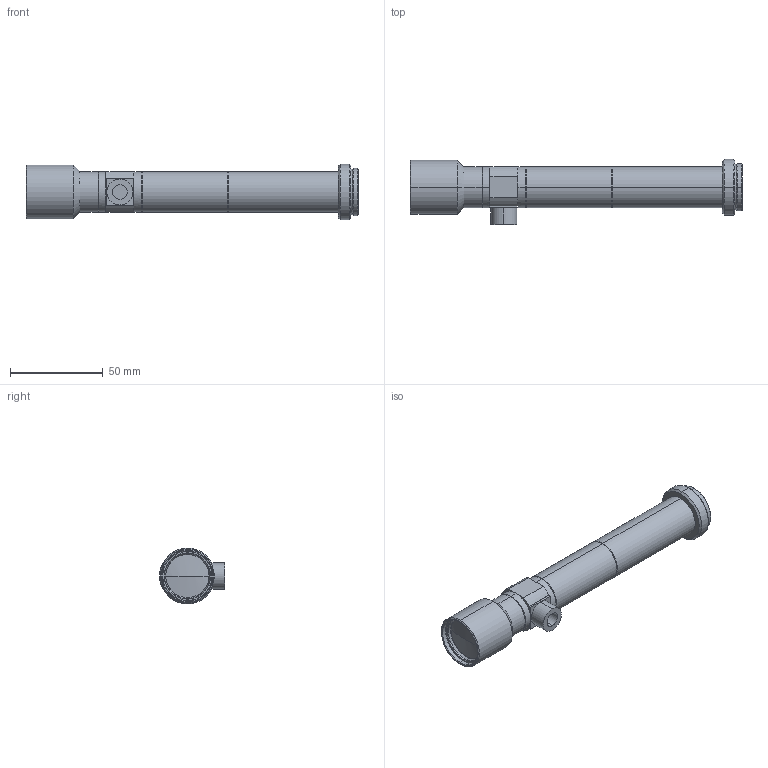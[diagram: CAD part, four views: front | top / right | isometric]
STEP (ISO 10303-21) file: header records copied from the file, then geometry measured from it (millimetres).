
FILE_DESCRIPTION (( 'STEP AP203' ), '1' );
FILE_NAME ('VS-TCH3-100CO.STEP', '2015-03-16T02:16:58', ( 'miura_vst' ), ( '' ), 'SwSTEP 2.0', 'SolidWorks 2015', '' );
FILE_SCHEMA (( 'CONFIG_CONTROL_DESIGN' ));
Length unit declared in the file: millimetre
Products named in the file (1): VS-TCH3-100CO
Bounding box: 178.71 x 35 x 30.01 mm (x, y, z)
Volume: 51864.5 mm3; surface area: 22666 mm2
Topology: 2 solids, 2 shells, 150 faces, 310 edges, 176 vertices
Faces by surface type: cone 64, cylinder 50, plane 32, sphere 4
Entity records: 3999 total; most frequent: DIRECTION 774, CARTESIAN_POINT 637, ORIENTED_EDGE 620, AXIS2_PLACEMENT_3D 313, EDGE_CURVE 310, VERTEX_POINT 176, EDGE_LOOP 164, CIRCLE 162
